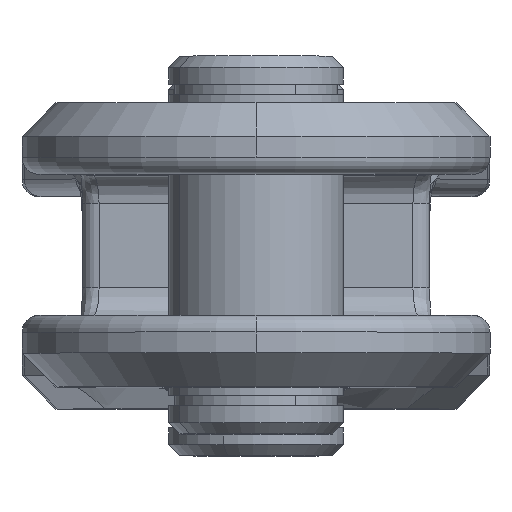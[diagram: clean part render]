
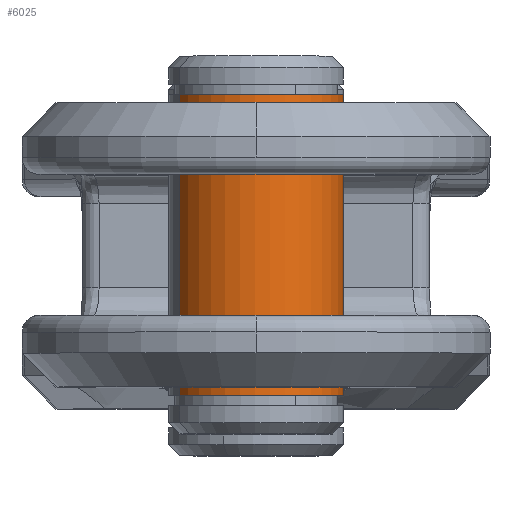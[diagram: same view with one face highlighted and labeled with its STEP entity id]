
A CAD part, top view. The second image highlights one B-rep face of the part: STEP entity #6025.
In plain terms, the highlighted cylindrical face has radius 15.5 mm (diameter 31 mm), a partial arc.
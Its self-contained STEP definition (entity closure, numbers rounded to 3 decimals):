
#970 = CARTESIAN_POINT ( 'NONE',  ( 60.2, 0., 15.5 ) ) ;
#1224 = DIRECTION ( 'NONE',  ( -1., 0., 0. ) ) ;
#1503 = CARTESIAN_POINT ( 'NONE',  ( 6.8, 0., 0. ) ) ;
#1563 = VECTOR ( 'NONE', #1224, 1000. ) ;
#1867 = LINE ( 'NONE', #6022, #1563 ) ;
#2294 = VECTOR ( 'NONE', #5706, 1000. ) ;
#2467 = DIRECTION ( 'NONE',  ( 0., -1., 0. ) ) ;
#2501 = ORIENTED_EDGE ( 'NONE', *, *, #3430, .F. ) ;
#2804 = CARTESIAN_POINT ( 'NONE',  ( 0., 0., 15.5 ) ) ;
#3248 = EDGE_LOOP ( 'NONE', ( #3745, #10198, #3381, #2501 ) ) ;
#3307 = VERTEX_POINT ( 'NONE', #10844 ) ;
#3353 = AXIS2_PLACEMENT_3D ( 'NONE', #1503, #8236, #2467 ) ;
#3381 = ORIENTED_EDGE ( 'NONE', *, *, #9696, .T. ) ;
#3430 = EDGE_CURVE ( 'NONE', #3307, #8750, #12303, .T. ) ;
#3745 = ORIENTED_EDGE ( 'NONE', *, *, #9236, .F. ) ;
#3813 = DIRECTION ( 'NONE',  ( -1., 0., 0. ) ) ;
#3826 = VERTEX_POINT ( 'NONE', #970 ) ;
#4609 = FACE_OUTER_BOUND ( 'NONE', #3248, .T. ) ;
#4850 = LINE ( 'NONE', #2804, #2294 ) ;
#5191 = CARTESIAN_POINT ( 'NONE',  ( 60.2, 0., -15.5 ) ) ;
#5706 = DIRECTION ( 'NONE',  ( -1., 0., 0. ) ) ;
#6022 = CARTESIAN_POINT ( 'NONE',  ( 0., 0., -15.5 ) ) ;
#6025 = ADVANCED_FACE ( 'NONE', ( #4609 ), #9440, .T. ) ;
#7709 = CIRCLE ( 'NONE', #7941, 15.5 ) ;
#7857 = AXIS2_PLACEMENT_3D ( 'NONE', #12249, #8308, #11270 ) ;
#7941 = AXIS2_PLACEMENT_3D ( 'NONE', #9586, #3813, #10545 ) ;
#8236 = DIRECTION ( 'NONE',  ( -1., 0., 0. ) ) ;
#8308 = DIRECTION ( 'NONE',  ( -1., 0., 0. ) ) ;
#8750 = VERTEX_POINT ( 'NONE', #8867 ) ;
#8867 = CARTESIAN_POINT ( 'NONE',  ( 6.8, 0., 15.5 ) ) ;
#9236 = EDGE_CURVE ( 'NONE', #9405, #3307, #1867, .T. ) ;
#9405 = VERTEX_POINT ( 'NONE', #5191 ) ;
#9440 = CYLINDRICAL_SURFACE ( 'NONE', #7857, 15.5 ) ;
#9586 = CARTESIAN_POINT ( 'NONE',  ( 60.2, 0., 0. ) ) ;
#9696 = EDGE_CURVE ( 'NONE', #3826, #8750, #4850, .T. ) ;
#9709 = EDGE_CURVE ( 'NONE', #9405, #3826, #7709, .T. ) ;
#10198 = ORIENTED_EDGE ( 'NONE', *, *, #9709, .T. ) ;
#10545 = DIRECTION ( 'NONE',  ( 0., -1., 0. ) ) ;
#10844 = CARTESIAN_POINT ( 'NONE',  ( 6.8, 0., -15.5 ) ) ;
#11270 = DIRECTION ( 'NONE',  ( 0., 0., 1. ) ) ;
#12249 = CARTESIAN_POINT ( 'NONE',  ( 0., 0., 0. ) ) ;
#12303 = CIRCLE ( 'NONE', #3353, 15.5 ) ;
